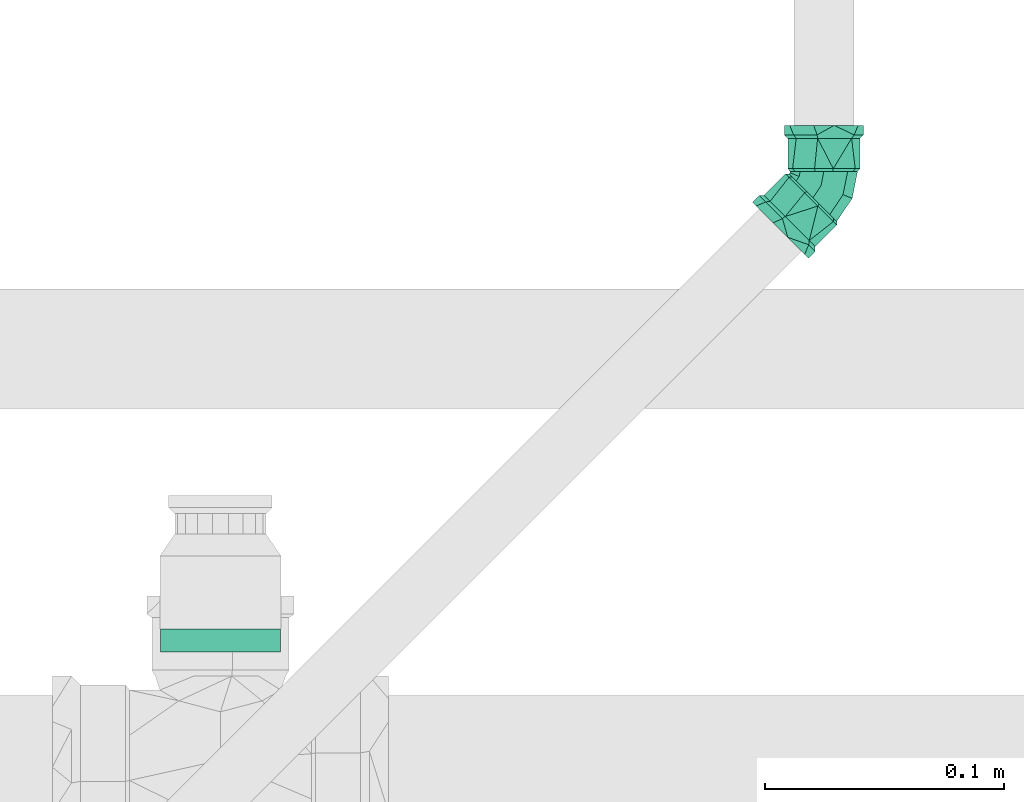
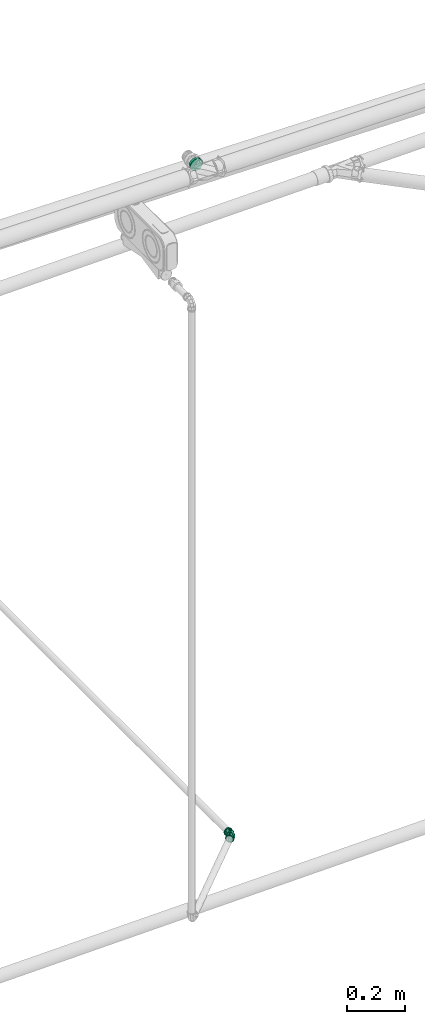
# One storey, part 365 of 589: 1 flow fitting, 1 flow segment.
"""IFC2X3 building model written with IfcOpenShell, lengths in millimetres."""

from ifc_helpers import new_model, entity, si_unit, converted_unit, derived_unit, direction, frame, origin, origin_2d_with_axis, place, context, subcontext, project, spatial, circle, extrude, faceted_brep, source, transform, mapped, material, type_object, type_shapes, element, save


model = new_model("IFC2X3")

# Units and contexts
model_context = context("Model", 3, precision=0.01, world=origin(), true_north=direction((6.123031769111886e-17, 1.0)))
body_context = subcontext(model_context, "Body", "Model", "MODEL_VIEW")
ifc_project = project(units=[si_unit("LENGTHUNIT", "METRE", prefix="MILLI"), si_unit("AREAUNIT", "SQUARE_METRE"), si_unit("VOLUMEUNIT", "CUBIC_METRE"), converted_unit("PLANEANGLEUNIT", "DEGREE", entity("IfcRatioMeasure", 0.017453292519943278), si_unit("PLANEANGLEUNIT", "RADIAN"), dimensions=[0, 0, 0, 0, 0, 0, 0]), si_unit("MASSUNIT", "GRAM", prefix="KILO"), derived_unit("MASSDENSITYUNIT", [(si_unit("MASSUNIT", "GRAM", prefix="KILO"), 1), (si_unit("LENGTHUNIT", "METRE"), -3)]), derived_unit("IONCONCENTRATIONUNIT", [(si_unit("MASSUNIT", "GRAM", prefix="KILO"), 1), (si_unit("LENGTHUNIT", "METRE"), -3)]), derived_unit("MOMENTOFINERTIAUNIT", [(si_unit("LENGTHUNIT", "METRE"), 4)]), si_unit("TIMEUNIT", "SECOND"), si_unit("FREQUENCYUNIT", "HERTZ"), si_unit("THERMODYNAMICTEMPERATUREUNIT", "DEGREE_CELSIUS"), derived_unit("THERMALTRANSMITTANCEUNIT", [(si_unit("MASSUNIT", "GRAM", prefix="KILO"), 1), (si_unit("THERMODYNAMICTEMPERATUREUNIT", "KELVIN"), -1), (si_unit("TIMEUNIT", "SECOND"), -3)]), derived_unit("THERMALCONDUCTANCEUNIT", [(si_unit("MASSUNIT", "GRAM", prefix="KILO"), 1), (si_unit("THERMODYNAMICTEMPERATUREUNIT", "KELVIN"), -1), (si_unit("TIMEUNIT", "SECOND"), -3), (si_unit("LENGTHUNIT", "METRE"), 1)]), derived_unit("VOLUMETRICFLOWRATEUNIT", [(si_unit("LENGTHUNIT", "METRE"), 3), (si_unit("TIMEUNIT", "SECOND"), -1)]), derived_unit("MASSFLOWRATEUNIT", [(si_unit("MASSUNIT", "GRAM", prefix="KILO"), 1), (si_unit("TIMEUNIT", "SECOND"), -1)]), derived_unit("ROTATIONALFREQUENCYUNIT", [(si_unit("TIMEUNIT", "SECOND"), -1)]), si_unit("ELECTRICCURRENTUNIT", "AMPERE"), si_unit("ELECTRICVOLTAGEUNIT", "VOLT"), si_unit("POWERUNIT", "WATT"), si_unit("FORCEUNIT", "NEWTON", prefix="KILO"), si_unit("ILLUMINANCEUNIT", "LUX"), si_unit("LUMINOUSFLUXUNIT", "LUMEN"), si_unit("LUMINOUSINTENSITYUNIT", "CANDELA"), derived_unit("USERDEFINED", [(si_unit("MASSUNIT", "GRAM", prefix="KILO"), -1), (si_unit("LENGTHUNIT", "METRE"), -2), (si_unit("TIMEUNIT", "SECOND"), 3), (si_unit("LUMINOUSFLUXUNIT", "LUMEN"), 1)]), derived_unit("USERDEFINED", [(si_unit("MASSUNIT", "GRAM", prefix="KILO"), 1), (si_unit("TIMEUNIT", "SECOND"), -3), (si_unit("LENGTHUNIT", "METRE"), 3), (si_unit("ELECTRICCURRENTUNIT", "AMPERE"), -2)]), derived_unit("SOUNDPOWERUNIT", [(si_unit("MASSUNIT", "GRAM", prefix="KILO"), 1), (si_unit("TIMEUNIT", "SECOND"), -3), (si_unit("LENGTHUNIT", "METRE"), 2)]), derived_unit("SOUNDPRESSUREUNIT", [(si_unit("MASSUNIT", "GRAM", prefix="KILO"), 1), (si_unit("LENGTHUNIT", "METRE"), -1), (si_unit("TIMEUNIT", "SECOND"), -2)]), derived_unit("LINEARVELOCITYUNIT", [(si_unit("LENGTHUNIT", "METRE"), 1), (si_unit("TIMEUNIT", "SECOND"), -1)]), si_unit("PRESSUREUNIT", "PASCAL"), derived_unit("USERDEFINED", [(si_unit("MASSUNIT", "GRAM", prefix="KILO"), 1), (si_unit("LENGTHUNIT", "METRE"), -2), (si_unit("TIMEUNIT", "SECOND"), -2)]), derived_unit("LINEARFORCEUNIT", [(si_unit("MASSUNIT", "GRAM", prefix="KILO"), 1), (si_unit("TIMEUNIT", "SECOND"), -2)]), derived_unit("PLANARFORCEUNIT", [(si_unit("MASSUNIT", "GRAM", prefix="KILO"), 1), (si_unit("LENGTHUNIT", "METRE"), -1), (si_unit("TIMEUNIT", "SECOND"), -2)]), derived_unit("SPECIFICHEATCAPACITYUNIT", [(si_unit("THERMODYNAMICTEMPERATUREUNIT", "KELVIN"), -1), (si_unit("LENGTHUNIT", "METRE"), 2), (si_unit("TIMEUNIT", "SECOND"), -2)]), derived_unit("HEATINGVALUEUNIT", [(si_unit("LENGTHUNIT", "METRE"), 2), (si_unit("TIMEUNIT", "SECOND"), -2)]), derived_unit("VAPORPERMEABILITYUNIT", [(si_unit("LENGTHUNIT", "METRE"), -1), (si_unit("TIMEUNIT", "SECOND"), 1)]), derived_unit("DYNAMICVISCOSITYUNIT", [(si_unit("MASSUNIT", "GRAM", prefix="KILO"), 1), (si_unit("TIMEUNIT", "SECOND"), -1), (si_unit("LENGTHUNIT", "METRE"), -1)]), derived_unit("THERMALEXPANSIONCOEFFICIENTUNIT", [(si_unit("THERMODYNAMICTEMPERATUREUNIT", "KELVIN"), -1)]), derived_unit("MODULUSOFELASTICITYUNIT", [(si_unit("MASSUNIT", "GRAM", prefix="KILO"), 1), (si_unit("LENGTHUNIT", "METRE"), -1), (si_unit("TIMEUNIT", "SECOND"), -2)]), derived_unit("ISOTHERMALMOISTURECAPACITYUNIT", [(si_unit("LENGTHUNIT", "METRE"), 3), (si_unit("MASSUNIT", "GRAM", prefix="KILO"), -1)]), derived_unit("MOISTUREDIFFUSIVITYUNIT", [(si_unit("TIMEUNIT", "SECOND"), -1), (si_unit("LENGTHUNIT", "METRE"), 2)])], contexts=[model_context])

# Site, building, storey
site_placement = place(None, origin())
site = spatial("IfcSite", under=ifc_project, at=site_placement, Name="Default", CompositionType="ELEMENT")
building_placement = place(site_placement, origin())
building = spatial("IfcBuilding", under=site, at=building_placement, CompositionType="ELEMENT")
storey_placement = place(building_placement, frame((0.0, 0.0, 100.0)))
storey = spatial("IfcBuildingStorey", under=building, at=storey_placement, Name="TÉRREO", CompositionType="ELEMENT", Elevation=100.0)

# Flow segment
pipe_segment_type = type_object("IfcPipeSegmentType", Name="Tipos de tubos:PVC Marrom Soldável", PredefinedType="NOTDEFINED")
flow_segment_placement = place(storey_placement, origin())
element("IfcFlowSegment", 1, at=flow_segment_placement, inside=storey, type_object=pipe_segment_type, Name="Tipos de tubos:PVC Marrom Soldável", ObjectType="Tipos de tubos:PVC Marrom Soldável", context=body_context, shape_type="SweptSolid", body=[
    extrude(circle(Radius=25.0, at=origin_2d_with_axis()), frame((-5589.223913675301, -480.9241377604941, 3000.0), z_axis=(0.0, 1.0, 0.0), x_axis=(1.0, 0.0, 0.0)), (0.0, 0.0, 1.0), 9.599999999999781),
])

# Flow fitting
ifc_material = material(Name="PVC Marrom")
pipe_fitting_type = type_object("IfcPipeFittingType", Name="PVC Marrom Soldável_Joelho 45°_90°_Rodrigo MEP:Joelho", PredefinedType="NOTDEFINED", material=ifc_material)
shared_shape = source(origin(), body_context, "Body", "Brep", [
    faceted_brep([(8.081155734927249, 2.554176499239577, 14.585479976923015), (14.564490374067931, -3.9291528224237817, 7.549999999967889), (15.994979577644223, -5.35964085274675, 0.0), (14.564490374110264, -3.929152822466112, -7.550000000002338), (8.081155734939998, 2.5541764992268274, -14.58547997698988), (2.554169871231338, 8.081157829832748, -14.585479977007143), (-3.929164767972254, 14.564487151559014, -7.550000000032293), (-5.359653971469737, 15.994975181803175, 0.0), (-3.9291647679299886, 14.564487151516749, 7.549999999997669), (2.554169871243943, 8.081157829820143, 14.585479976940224), (1.9703462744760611, 7.109346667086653, 13.561598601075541), (-4.057866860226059, 13.137554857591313, 7.019999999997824), (-5.387937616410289, 14.46762452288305, 0.0), (-4.0578668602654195, 13.137554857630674, -7.0200000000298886), (1.9703462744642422, 7.109346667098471, -13.561598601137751), (7.1093450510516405, 1.9703521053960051, -13.561598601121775), (13.137558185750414, -4.057856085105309, -7.020000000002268), (14.467628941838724, -5.387925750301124, 0.0), (13.137558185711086, -4.057856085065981, 7.0199999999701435), (7.109345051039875, 1.9703521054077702, 13.561598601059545)], [[[0, 1, 2, 3, 4, 5, 6, 7, 8, 9]], [[10, 11, 12, 13, 14, 15, 16, 17, 18, 19]], [[3, 2, 17, 16]], [[4, 3, 16, 15]], [[15, 14, 5, 4]], [[6, 5, 14, 13]], [[7, 6, 13, 12]], [[8, 7, 12, 11]], [[9, 8, 11, 10]], [[10, 19, 0, 9]], [[1, 0, 19, 18]], [[2, 1, 18, 17]]]),
    faceted_brep([(-7.5203139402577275, 3.9081675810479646, 14.585479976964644), (-7.5203139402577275, 13.076983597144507, 7.549999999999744), (-7.5203139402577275, 15.100000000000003, 0.0), (-7.5203139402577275, 13.076983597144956, -7.549999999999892), (-7.5203139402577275, 3.9081675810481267, -14.585479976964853), (-7.5203139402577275, -3.908167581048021, -14.585479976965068), (-7.5203139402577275, -13.076983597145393, -7.550000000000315), (-7.5203139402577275, -15.099999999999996, 0.0), (-7.5203139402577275, -13.07698359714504, 7.550000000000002), (-7.5203139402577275, -3.9081675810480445, 14.585479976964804), (-6.420313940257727, 12.158996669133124, 7.0199999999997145), (-6.420313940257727, 3.6338193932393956, 13.561598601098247), (-6.420313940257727, -3.6338193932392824, 13.561598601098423), (-6.420313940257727, -12.158996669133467, 7.0200000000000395), (-6.420313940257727, -14.040000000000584, 0.0), (-6.420313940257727, -12.158996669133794, -7.020000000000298), (-6.420313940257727, -3.633819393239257, -13.561598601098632), (-6.420313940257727, 3.633819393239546, -13.561598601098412), (-6.420313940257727, 12.158996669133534, -7.019999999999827), (-6.420313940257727, 14.03999999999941, 0.0)], [[[0, 1, 2, 3, 4, 5, 6, 7, 8, 9]], [[10, 11, 12, 13, 14, 15, 16, 17, 18, 19]], [[3, 2, 19, 18]], [[4, 3, 18, 17]], [[17, 16, 5, 4]], [[6, 5, 16, 15]], [[7, 6, 15, 14]], [[8, 7, 14, 13]], [[9, 8, 13, 12]], [[12, 11, 0, 9]], [[1, 0, 11, 10]], [[2, 1, 10, 19]]]),
    faceted_brep([(-25.620313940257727, -4.2705142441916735, -15.937776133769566), (-25.620313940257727, -6.250000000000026, -10.825317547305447), (-25.620313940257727, 0.0, -12.5), (-25.620313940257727, -14.289419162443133, -8.25000000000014), (-25.620313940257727, 4.270514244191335, -15.937776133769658), (-25.620313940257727, -12.074072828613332, -3.23523806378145), (-25.620313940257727, -16.499999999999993, 0.0), (-25.620313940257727, -12.074072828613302, 3.2352380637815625), (-25.620313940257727, -14.289419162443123, 8.249999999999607), (-25.620313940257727, -6.249999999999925, 10.825317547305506), (-25.620313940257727, -4.27051424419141, 15.937776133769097), (-25.620313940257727, 0.0, 12.5), (-25.620313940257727, 4.270514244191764, 15.937776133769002), (-25.620313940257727, 6.249999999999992, 10.825317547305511), (-25.620313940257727, 14.28941916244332, 8.249999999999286), (-25.620313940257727, 12.074072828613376, 3.2352380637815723), (-25.620313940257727, 16.500000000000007, 0.0), (-25.620313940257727, 12.074072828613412, -3.235238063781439), (-25.620313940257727, 14.289419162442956, -8.250000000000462), (-25.620313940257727, 6.250000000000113, -10.82531754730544), (-21.620313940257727, 16.5, 0.0), (-21.620313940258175, 12.639142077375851, 10.606700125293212), (-21.620313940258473, 2.8633833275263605, 16.249647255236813), (-21.620313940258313, -12.64180232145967, 10.603529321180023), (-21.620313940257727, -16.499999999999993, 0.0), (-21.620313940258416, -4.889209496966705, 13.426588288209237), (-21.620313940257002, -12.641802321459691, -10.603529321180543), (-21.62031394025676, -2.8674593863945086, -16.24892847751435), (-21.62031394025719, 12.639142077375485, -10.606700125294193), (-21.62031394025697, 4.885841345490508, -13.427814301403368), (-20.22031394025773, -15.099999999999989, 0.0), (-20.22031394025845, -11.56916454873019, 9.703835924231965), (-20.22031394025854, -4.474367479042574, 12.287362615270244), (-20.220313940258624, 2.6204295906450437, 14.870889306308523), (-20.220313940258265, 11.566730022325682, 9.706737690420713), (-20.220313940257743, 15.099999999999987, 0.0), (-20.220313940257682, 11.566730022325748, -9.706737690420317), (-20.22031394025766, 4.4712851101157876, -12.28848460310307), (-20.220313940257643, -2.6241598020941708, -14.870231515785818), (-20.220313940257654, -11.569164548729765, -9.703835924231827), (-7.5203139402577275, 0.0, -12.5), (-7.5203139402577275, -6.250000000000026, -10.825317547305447), (-7.5203139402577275, -3.908167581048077, -14.585479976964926), (-7.5203139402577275, 3.9081675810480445, -14.585479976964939), (-7.5203139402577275, 6.250000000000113, -10.82531754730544), (-7.5203139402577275, -13.076983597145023, -7.549999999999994), (-7.5203139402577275, -12.074072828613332, -3.23523806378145), (-7.5203139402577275, -15.099999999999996, 0.0), (-7.5203139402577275, -12.074072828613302, 3.2352380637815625), (-7.5203139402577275, -13.076983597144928, 7.550000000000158), (-7.5203139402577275, -6.249999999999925, 10.825317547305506), (-7.5203139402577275, -3.9081675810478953, 14.585479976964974), (-7.5203139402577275, 0.0, 12.5), (-7.5203139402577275, 3.9081675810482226, 14.58547997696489), (-7.5203139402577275, 6.249999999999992, 10.825317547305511), (-7.5203139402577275, 13.076983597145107, 7.549999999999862), (-7.5203139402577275, 12.074072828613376, 3.2352380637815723), (-7.5203139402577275, 15.100000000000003, 0.0), (-7.5203139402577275, 12.074072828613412, -3.235238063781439), (-7.5203139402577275, 13.076983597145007, -7.550000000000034)], [[[0, 1, 2]], [[1, 0, 3]], [[2, 4, 0]], [[3, 5, 1]], [[3, 6, 5]], [[5, 6, 7]], [[8, 7, 6]], [[7, 8, 9]], [[10, 9, 8]], [[9, 10, 11]], [[11, 10, 12]], [[12, 13, 11]], [[14, 13, 12]], [[13, 14, 15]], [[16, 15, 14]], [[16, 17, 15]], [[18, 17, 16]], [[19, 17, 18]], [[19, 18, 4]], [[4, 2, 19]], [[16, 14, 20]], [[14, 21, 20]], [[21, 14, 12]], [[21, 12, 22]], [[23, 10, 8]], [[24, 8, 6]], [[10, 23, 25, 22]], [[23, 8, 24]], [[10, 22, 12]], [[6, 3, 24]], [[3, 26, 24]], [[26, 3, 0]], [[26, 0, 27]], [[28, 4, 18]], [[20, 18, 16]], [[4, 28, 29, 27]], [[28, 18, 20]], [[4, 27, 0]], [[30, 31, 23, 24]], [[31, 32, 33, 22, 25, 23]], [[34, 35, 20, 21]], [[34, 21, 22, 33]], [[35, 36, 28, 20]], [[36, 37, 38, 27, 29, 28]], [[39, 30, 24, 26]], [[39, 26, 27, 38]], [[40, 41, 42]], [[42, 43, 40]], [[44, 40, 43]], [[45, 42, 41]], [[41, 46, 45]], [[46, 47, 45]], [[48, 47, 46]], [[47, 48, 49]], [[50, 49, 48]], [[49, 50, 51]], [[52, 51, 50]], [[53, 51, 52]], [[52, 54, 53]], [[53, 54, 55]], [[56, 55, 54]], [[55, 56, 57]], [[56, 58, 57]], [[59, 58, 44]], [[57, 58, 59]], [[43, 59, 44]], [[35, 34, 55]], [[35, 55, 57]], [[55, 34, 53]], [[34, 33, 53]], [[51, 33, 32, 31]], [[49, 31, 30]], [[31, 49, 51]], [[49, 30, 47]], [[33, 51, 53]], [[30, 39, 45]], [[30, 45, 47]], [[45, 39, 42]], [[39, 38, 42]], [[43, 38, 37, 36]], [[59, 36, 35]], [[36, 59, 43]], [[59, 35, 57]], [[38, 43, 42]], [[9, 11, 52, 50]], [[7, 9, 50, 48]], [[48, 46, 5, 7]], [[1, 5, 46, 41]], [[2, 1, 41, 40]], [[19, 2, 40, 44]], [[17, 19, 44, 58]], [[58, 56, 15, 17]], [[13, 15, 56, 54]], [[11, 13, 54, 52]]]),
    faceted_brep([(4.8841602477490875, -11.791399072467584, 0.0), (3.3104807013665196, -7.992202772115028, 9.92777920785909), (-6.420313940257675, -9.927779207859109, 9.92777920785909), (-6.4203139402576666, -14.039999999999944, 0.0), (-0.4887178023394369, 1.1798684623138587, 14.04), (-6.420313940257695, 0.0, 14.04), (-4.287916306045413, 10.351939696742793, 9.927779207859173), (-6.420313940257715, 9.927779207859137, 9.927779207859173), (-5.86159585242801, 14.151135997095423, 0.0), (-6.420313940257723, 14.040000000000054, 0.0), (-4.287916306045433, 10.35193969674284, -9.92777920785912), (-6.420313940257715, 9.927779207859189, -9.92777920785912), (-0.48871780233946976, 1.1798684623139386, -14.04), (-6.420313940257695, 0.0, -14.04), (3.3104807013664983, -7.992202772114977, -9.927779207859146), (-6.420313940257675, -9.927779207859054, -9.927779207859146), (14.467628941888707, -5.387925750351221, 0.0), (11.559848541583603, -2.480147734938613, 9.92777920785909), (4.53984566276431, 4.539849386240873, 14.04), (-2.48015721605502, 11.559846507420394, 9.927779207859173), (-5.38793761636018, 14.467624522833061, 0.0), (-2.4801572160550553, 11.55984650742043, -9.92777920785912), (4.539845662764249, 4.539849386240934, -14.04), (11.559848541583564, -2.480147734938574, -9.927779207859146)], [[[0, 1, 2, 3]], [[1, 4, 5, 2]], [[4, 6, 7, 5]], [[6, 8, 9, 7]], [[8, 10, 11, 9]], [[10, 12, 13, 11]], [[12, 14, 15, 13]], [[14, 0, 3, 15]], [[16, 17, 1, 0]], [[17, 18, 4, 1]], [[18, 19, 6, 4]], [[19, 20, 8, 6]], [[20, 21, 10, 8]], [[21, 22, 12, 10]], [[22, 23, 14, 12]], [[23, 16, 0, 14]], [[3, 2, 5, 7, 9, 11, 13, 15]], [[23, 22, 21, 20, 19, 18, 17, 16]]]),
    faceted_brep([(5.3176628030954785, 5.317667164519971, -12.5), (0.898243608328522, 9.737082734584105, -10.825317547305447), (2.554169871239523, 8.081157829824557, -14.585479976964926), (8.081155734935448, 2.554176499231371, -14.585479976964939), (9.737081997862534, 0.898251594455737, -10.825317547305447), (-3.9291647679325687, 14.564487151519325, -7.549999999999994), (-3.2199994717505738, 13.855322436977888, -3.23523806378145), (-5.359653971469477, 15.994975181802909, 0.0), (-3.2199994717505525, 13.855322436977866, 3.2352380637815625), (-3.929164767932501, 14.564487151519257, 7.550000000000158), (0.8982436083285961, 9.737082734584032, 10.825317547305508), (2.554169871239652, 8.081157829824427, 14.585479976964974), (5.3176628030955, 5.31766716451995, 12.5), (8.081155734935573, 2.5541764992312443, 14.58547997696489), (9.737081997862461, 0.89825159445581, 10.825317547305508), (14.564490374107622, -3.9291528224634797, 7.549999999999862), (13.855325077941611, -3.2199881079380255, 3.2352380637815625), (15.994979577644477, -5.359640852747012, 0.0), (13.85532507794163, -3.219988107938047, -3.23523806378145), (14.564490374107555, -3.9291528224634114, -7.550000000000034), (24.975232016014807, 3.620618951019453, 0.0), (22.476831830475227, 6.119017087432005, 9.706737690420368), (17.459592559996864, 11.136252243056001, 12.288484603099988), (12.442353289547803, 16.153487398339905, 14.870231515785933), (6.117277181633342, 22.4785583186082, 9.703835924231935), (3.620598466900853, 24.975234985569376, 0.0), (6.117277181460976, 22.478558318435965, -9.703835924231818), (11.13405835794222, 17.461781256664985, -12.287362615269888), (16.150839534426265, 12.445004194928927, -14.870889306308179), (22.476831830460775, 6.119017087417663, -9.706737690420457), (6.350637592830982, 24.22509627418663, 10.606700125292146), (3.6205976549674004, 26.955133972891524, 0.0), (13.26314573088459, 17.312593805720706, 16.24964725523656), (24.22697214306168, 6.34877638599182, 10.603529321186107), (18.745058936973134, 11.830685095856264, 13.426588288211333), (26.955131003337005, 3.6206197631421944, 0.0), (24.226972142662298, 6.348776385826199, -10.603529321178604), (17.315465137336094, 13.2602777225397, -16.24892847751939), (6.350637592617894, 24.225096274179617, -10.60670012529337), (11.833051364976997, 18.742686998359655, -13.427814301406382), (15.09657947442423, 21.13601349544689, -15.937776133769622), (13.696871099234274, 22.53572072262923, -10.825317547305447), (18.116290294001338, 18.116305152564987, -12.5), (8.01214096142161, 28.22044619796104, -8.249999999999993), (21.136001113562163, 15.09659680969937, -15.937776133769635), (9.578628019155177, 26.65396042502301, -3.23523806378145), (6.44902361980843, 29.78356225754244, 0.0), (9.578628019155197, 26.653960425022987, 3.2352380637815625), (8.012140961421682, 28.220446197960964, 8.250000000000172), (13.696871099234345, 22.535720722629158, 10.825317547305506), (15.096579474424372, 21.136013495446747, 15.937776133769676), (18.116290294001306, 18.11630515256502, 12.5), (21.136001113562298, 15.096596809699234, 15.937776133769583), (22.535709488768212, 13.696889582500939, 10.825317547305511), (28.220439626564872, 8.012164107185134, 8.24999999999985), (26.653952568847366, 9.578649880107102, 3.2352380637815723), (29.783556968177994, 6.449048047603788, 0.0), (26.65395256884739, 9.578649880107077, -3.235238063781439), (28.220439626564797, 8.012164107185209, -8.250000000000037), (22.535709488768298, 13.696889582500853, -10.82531754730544)], [[[0, 1, 2]], [[2, 3, 0]], [[4, 0, 3]], [[5, 2, 1]], [[1, 6, 5]], [[6, 7, 5]], [[8, 7, 6]], [[7, 8, 9]], [[10, 9, 8]], [[9, 10, 11]], [[12, 11, 10]], [[13, 11, 12]], [[12, 14, 13]], [[13, 14, 15]], [[16, 15, 14]], [[15, 16, 17]], [[16, 18, 17]], [[19, 18, 4]], [[17, 18, 19]], [[3, 19, 4]], [[20, 21, 15]], [[20, 15, 17]], [[15, 21, 13]], [[13, 21, 22, 23]], [[11, 23, 24]], [[9, 24, 25]], [[24, 9, 11]], [[9, 25, 7]], [[23, 11, 13]], [[25, 26, 5]], [[25, 5, 7]], [[5, 26, 2]], [[2, 26, 27, 28]], [[3, 28, 29]], [[19, 29, 20]], [[29, 19, 3]], [[19, 20, 17]], [[28, 3, 2]], [[24, 23, 30]], [[25, 24, 31]], [[31, 24, 30]], [[23, 32, 30]], [[21, 20, 33]], [[21, 33, 34]], [[22, 32, 23]], [[35, 33, 20]], [[32, 22, 34]], [[22, 21, 34]], [[20, 29, 36]], [[36, 35, 20]], [[37, 36, 29]], [[38, 39, 27]], [[29, 28, 37]], [[26, 25, 31]], [[38, 27, 26]], [[38, 26, 31]], [[28, 39, 37]], [[39, 28, 27]], [[40, 41, 42]], [[41, 40, 43]], [[42, 44, 40]], [[43, 45, 41]], [[43, 46, 45]], [[45, 46, 47]], [[48, 47, 46]], [[47, 48, 49]], [[50, 49, 48]], [[49, 50, 51]], [[51, 50, 52]], [[52, 53, 51]], [[54, 53, 52]], [[53, 54, 55]], [[56, 55, 54]], [[56, 57, 55]], [[58, 57, 56]], [[59, 57, 58]], [[59, 58, 44]], [[44, 42, 59]], [[56, 54, 35]], [[54, 33, 35]], [[33, 54, 52]], [[52, 32, 34, 33]], [[30, 50, 48]], [[31, 48, 46]], [[50, 30, 32]], [[30, 48, 31]], [[50, 32, 52]], [[46, 43, 31]], [[43, 38, 31]], [[38, 43, 40]], [[40, 37, 39, 38]], [[36, 44, 58]], [[35, 58, 56]], [[44, 36, 37]], [[36, 58, 35]], [[44, 37, 40]], [[49, 51, 12, 10]], [[47, 49, 10, 8]], [[8, 6, 45, 47]], [[41, 45, 6, 1]], [[42, 41, 1, 0]], [[59, 42, 0, 4]], [[57, 59, 4, 18]], [[18, 16, 55, 57]], [[53, 55, 16, 14]], [[51, 53, 14, 12]]]),
])
type_shapes(pipe_fitting_type, [shared_shape])
flow_fitting_placement = place(storey_placement, frame((-5337.23743510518, -286.5688049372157, -37.359807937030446), z_axis=(0.0, 0.0, 1.0), x_axis=(0.7071070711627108, 0.7071064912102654, 0.0)))
element("IfcFlowFitting", 2, at=flow_fitting_placement, inside=storey, type_object=pipe_fitting_type, material=ifc_material, Name="PVC Marrom Soldável_Joelho 45°_90°_Rodrigo MEP:Joelho", ObjectType="PVC Marrom Soldável_Joelho 45°_90°_Rodrigo MEP:Joelho", context=body_context, shape_type="MappedRepresentation", body=[
    mapped(shared_shape, transform((0.0, 0.0, 0.0), scale=1.0)),
])

save(model, "model.ifc")
